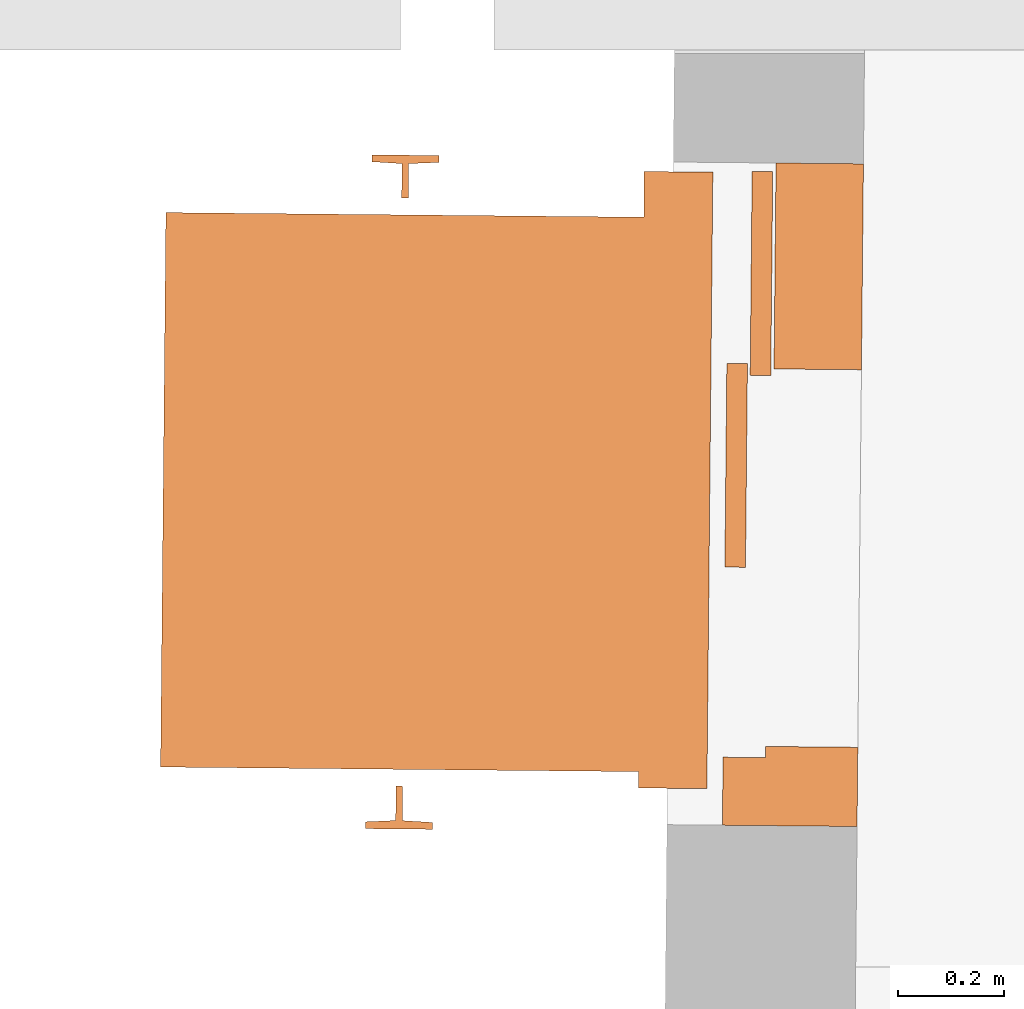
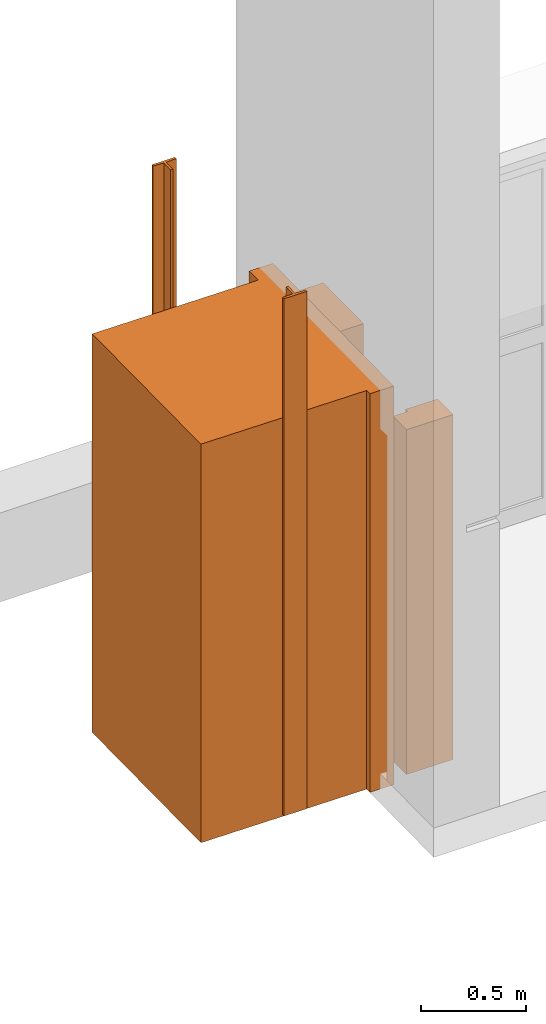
# One storey, part 13 of 13: 1 proxy.
"""IFC4 building model written with IfcOpenShell, lengths in metres."""

import ifcopenshell
import ifcopenshell.guid

model = None  # the IFC model being written
_history = None  # IfcOwnerHistory: only IFC2X3 demands one
_inside = {}  # id of a spatial element -> (the spatial element, [elements in it])
_under = {}  # id of a project, library or spatial element -> (it, [spatial elements below it])
_declared = {}  # id of a project -> (the project, [libraries it declares])
_typed = {}  # id of a type object -> (the type object, [elements of that type])
_made_of = {}  # id of a material, layer set ... -> (it, [elements and type objects made of it])


def new_model(schema):
    """Start an empty IFC model of exactly this schema.

    Asked for "IFC4X3", IfcOpenShell would pick the latest addendum, in which some entities
    have other attributes; the version numbers below select the first issue.
    IFC2X3 requires an IfcOwnerHistory on every rooted entity: one is made here for all.
    """
    global model, _history
    if schema == "IFC4X3":
        model = ifcopenshell.file(schema_version=(4, 3, 0, 0))
    else:
        model = ifcopenshell.file(schema=schema)
    _inside.clear()
    _under.clear()
    _declared.clear()
    _typed.clear()
    _made_of.clear()
    _history = None
    if model.schema == "IFC2X3":
        org = make("IfcOrganization", Name="unknown")
        user = make(
            "IfcPersonAndOrganization",
            ThePerson=make("IfcPerson", FamilyName="unknown"),
            TheOrganization=org,
        )
        app = make(
            "IfcApplication",
            ApplicationDeveloper=org,
            Version="unknown",
            ApplicationFullName="unknown",
            ApplicationIdentifier="unknown",
        )
        _history = make(
            "IfcOwnerHistory",
            OwningUser=user,
            OwningApplication=app,
            ChangeAction="ADDED",
            CreationDate=0,
        )
    return model


def make(cls, **values):
    """One entity of the class cls with the attributes given. An attribute that is None is left unset."""
    return model.create_entity(
        cls, **{name: value for name, value in values.items() if value is not None}
    )


def entity(cls, *values):
    """Any entity or typed value of the class cls, its attributes in the order of the schema. None: left unset."""
    e = model.create_entity(cls)
    for i, value in enumerate(values):
        if value is not None:
            e[i] = value
    return e


def rooted(cls, **values):
    """An entity with a GlobalId (a new one), such as an element, a storey or a relation."""
    return make(cls, GlobalId=ifcopenshell.guid.new(), OwnerHistory=_history, **values)


def si_unit(unit_type, name, prefix=None):
    """IfcSIUnit, for example si_unit("LENGTHUNIT", "METRE", prefix="MILLI")."""
    return make("IfcSIUnit", UnitType=unit_type, Prefix=prefix, Name=name)


def converted_unit(unit_type, name, factor, base, dimensions=None, offset=None):
    """IfcConversionBasedUnit, such as the inch: factor (a typed value) times the base unit."""
    return make(
        "IfcConversionBasedUnit"
        if offset is None
        else "IfcConversionBasedUnitWithOffset",
        ConversionOffset=offset,
        Dimensions=None
        if dimensions is None
        else entity("IfcDimensionalExponents", *dimensions),
        UnitType=unit_type,
        Name=name,
        ConversionFactor=make(
            "IfcMeasureWithUnit", ValueComponent=factor, UnitComponent=base
        ),
    )


def derived_unit(unit_type, elements):
    """IfcDerivedUnit: a product of units, each with its exponent."""
    return make(
        "IfcDerivedUnit",
        Elements=[
            make("IfcDerivedUnitElement", Unit=unit, Exponent=power)
            for unit, power in elements
        ],
        UnitType=unit_type,
    )


def assignment(units):
    """IfcUnitAssignment: the units of a project."""
    return None if units is None else make("IfcUnitAssignment", Units=units)


def point(xyz):
    """IfcCartesianPoint."""
    return None if xyz is None else make("IfcCartesianPoint", Coordinates=xyz)


def direction(xyz):
    """IfcDirection."""
    return None if xyz is None else make("IfcDirection", DirectionRatios=xyz)


def frame(location, z_axis=None, x_axis=None):
    """IfcAxis2Placement3D, a coordinate frame: its origin and axes. An axis left out is left unset."""
    return make(
        "IfcAxis2Placement3D",
        Location=point(location),
        Axis=direction(z_axis),
        RefDirection=direction(x_axis),
    )


def origin():
    """The frame at (0, 0, 0) with its axes left unset."""
    return frame((0.0, 0.0, 0.0))


def place(relative_to, where):
    """IfcLocalPlacement: puts the frame where relative to a parent placement (None: the world)."""
    return make(
        "IfcLocalPlacement", PlacementRelTo=relative_to, RelativePlacement=where
    )


def context(
    kind, dimensions, precision=None, world=None, true_north=None, identifier=None
):
    """IfcGeometricRepresentationContext, for example the 3D "Model" context."""
    return make(
        "IfcGeometricRepresentationContext",
        ContextIdentifier=identifier,
        ContextType=kind,
        CoordinateSpaceDimension=dimensions,
        Precision=precision,
        WorldCoordinateSystem=world,
        TrueNorth=true_north,
    )


def subcontext(parent, identifier, kind, view, scale=None):
    """IfcGeometricRepresentationSubContext, for example "Body" below "Model"."""
    return make(
        "IfcGeometricRepresentationSubContext",
        ContextIdentifier=identifier,
        ContextType=kind,
        ParentContext=parent,
        TargetScale=scale,
        TargetView=view,
    )


def project(units=None, contexts=None):
    """IfcProject with its units and contexts."""
    return rooted(
        "IfcProject",
        Name="project",
        RepresentationContexts=contexts,
        UnitsInContext=assignment(units),
    )


def spatial(cls, under=None, at=None, **own):
    """A site, building, storey or space (cls), placed at a placement, below another one or the project."""
    s = rooted(cls, ObjectPlacement=at, **own)
    if under is not None:
        _under.setdefault(under.id(), (under, []))[1].append(s)
    return s


def point_list(points):
    """IfcCartesianPointList2D or 3D."""
    cls = (
        "IfcCartesianPointList2D" if len(points[0]) == 2 else "IfcCartesianPointList3D"
    )
    return make(cls, CoordList=points)


def polygons(points, faces, closed=None, point_numbers=None):
    """IfcPolygonalFaceSet: a face is its outer loop, then its inner loops; points numbered from 1."""
    made = []
    for loops in faces:
        if len(loops) == 1:
            made.append(make("IfcIndexedPolygonalFace", CoordIndex=loops[0]))
        else:
            made.append(
                make(
                    "IfcIndexedPolygonalFaceWithVoids",
                    CoordIndex=loops[0],
                    InnerCoordIndices=loops[1:],
                )
            )
    return make(
        "IfcPolygonalFaceSet",
        Coordinates=point_list(points),
        Closed=closed,
        Faces=made,
        PnIndex=point_numbers,
    )


def shape(context_of_items, identifier, shape_type, items):
    """IfcShapeRepresentation: the items that make up one representation, for example the "Body"."""
    return make(
        "IfcShapeRepresentation",
        ContextOfItems=context_of_items,
        RepresentationIdentifier=identifier,
        RepresentationType=shape_type,
        Items=items,
    )


def source(mapping_origin, context_of_items, identifier, shape_type, items):
    """IfcRepresentationMap: a shape defined once, which mapped items show again and again."""
    return make(
        "IfcRepresentationMap",
        MappingOrigin=mapping_origin,
        MappedRepresentation=shape(context_of_items, identifier, shape_type, items),
    )


def transform(
    local_origin,
    x_axis=None,
    y_axis=None,
    z_axis=None,
    scale=None,
    scale2=None,
    scale3=None,
    uniform=True,
):
    """IfcCartesianTransformationOperator3D, or its non-uniform kind. x_axis, y_axis, z_axis: its Axis1, 2, 3."""
    if uniform:
        return make(
            "IfcCartesianTransformationOperator3D",
            Axis1=direction(x_axis),
            Axis2=direction(y_axis),
            LocalOrigin=point(local_origin),
            Scale=scale,
            Axis3=direction(z_axis),
        )
    return make(
        "IfcCartesianTransformationOperator3DnonUniform",
        Axis1=direction(x_axis),
        Axis2=direction(y_axis),
        LocalOrigin=point(local_origin),
        Scale=scale,
        Axis3=direction(z_axis),
        Scale2=scale2,
        Scale3=scale3,
    )


def mapped(mapping_source, mapping_target):
    """IfcMappedItem: shows the shape of a source again, moved by a transform."""
    return make(
        "IfcMappedItem", MappingSource=mapping_source, MappingTarget=mapping_target
    )


def material(Name=None, Category=None):
    """IfcMaterial."""
    return make("IfcMaterial", Name=Name, Category=Category)


def made_of(thing, what):
    """Note that an element or type object is made of a material, layer set ...; save() writes the relation."""
    if what is not None:
        _made_of.setdefault(what.id(), (what, []))[1].append(thing)
    return thing


def type_object(cls, material=None, **own):
    """A type object (cls), such as IfcWallType, which elements share."""
    return made_of(rooted(cls, **own), material)


def type_shapes(of_type, sources):
    """Give a type object the sources (RepresentationMaps) that its elements show as mapped items."""
    of_type.RepresentationMaps = sources


def element(
    cls,
    number,
    at=None,
    inside=None,
    cuts=None,
    type_object=None,
    material=None,
    context=None,
    identifier="Body",
    shape_type=None,
    held_by="IfcProductDefinitionShape",
    body=None,
    shapes=None,
    **own,
):
    """One element of the class cls, such as IfcWall. Its Tag is "e" and its number.

    at: its placement. inside: the storey or other place that contains it. cuts: it is an
    opening in that element (IfcRelVoidsElement). A single representation is given by context,
    identifier, shape_type and body (its items); several are given by shapes. held_by: the class
    of the entity that holds the representations. save() writes the other relations.
    """
    e = rooted(cls, Tag="e%d" % number, ObjectPlacement=at, **own)
    if body is not None:
        shapes = [shape(context, identifier, shape_type, body)]
    if shapes is not None:
        e.Representation = make(held_by, Representations=shapes)
    if inside is not None:
        _inside.setdefault(inside.id(), (inside, []))[1].append(e)
    if cuts is not None:
        rooted(
            "IfcRelVoidsElement", RelatingBuildingElement=cuts, RelatedOpeningElement=e
        )
    if type_object is not None:
        _typed.setdefault(type_object.id(), (type_object, []))[1].append(e)
    return made_of(e, material)


def aggregate(whole, parts):
    """IfcRelAggregates: a whole, such as a stair, and the parts it consists of."""
    return rooted("IfcRelAggregates", RelatingObject=whole, RelatedObjects=parts)


def save(model, path):
    """Write the relations noted so far, then the file.

    IfcRelAggregates (storeys below a building ...), IfcRelContainedInSpatialStructure (elements
    in a storey), IfcRelDefinesByType, IfcRelAssociatesMaterial and IfcRelDeclares: one each for
    every whole, place, type object, material and project.
    """
    for whole, parts in _under.values():
        aggregate(whole, parts)
    for where, things in _inside.values():
        rooted(
            "IfcRelContainedInSpatialStructure",
            RelatedElements=things,
            RelatingStructure=where,
        )
    for kind, things in _typed.values():
        rooted("IfcRelDefinesByType", RelatedObjects=things, RelatingType=kind)
    for what, things in _made_of.values():
        rooted("IfcRelAssociatesMaterial", RelatedObjects=things, RelatingMaterial=what)
    for by, libraries in _declared.values():
        rooted("IfcRelDeclares", RelatingContext=by, RelatedDefinitions=libraries)
    model.write(path)


model = new_model("IFC4")

# Units and contexts
model_context = context("Model", 3, precision=1e-05, world=origin(), true_north=direction((6.12303176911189e-17, 1.0)))
body_context = subcontext(model_context, "Body", "Model", "MODEL_VIEW")
ifc_project = project(units=[si_unit("LENGTHUNIT", "METRE"), si_unit("AREAUNIT", "SQUARE_METRE"), si_unit("VOLUMEUNIT", "CUBIC_METRE"), converted_unit("PLANEANGLEUNIT", "DEGREE", entity("IfcRatioMeasure", 0.0174532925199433), si_unit("PLANEANGLEUNIT", "RADIAN"), dimensions=[0, 0, 0, 0, 0, 0, 0]), si_unit("MASSUNIT", "GRAM", prefix="KILO"), derived_unit("MASSDENSITYUNIT", [(si_unit("MASSUNIT", "GRAM", prefix="KILO"), 1), (si_unit("LENGTHUNIT", "METRE"), -3)]), derived_unit("MOMENTOFINERTIAUNIT", [(si_unit("LENGTHUNIT", "METRE"), 4)]), si_unit("TIMEUNIT", "SECOND"), si_unit("FREQUENCYUNIT", "HERTZ"), si_unit("THERMODYNAMICTEMPERATUREUNIT", "DEGREE_CELSIUS"), derived_unit("THERMALTRANSMITTANCEUNIT", [(si_unit("MASSUNIT", "GRAM", prefix="KILO"), 1), (si_unit("THERMODYNAMICTEMPERATUREUNIT", "KELVIN"), -1), (si_unit("TIMEUNIT", "SECOND"), -3)]), derived_unit("VOLUMETRICFLOWRATEUNIT", [(si_unit("LENGTHUNIT", "METRE"), 3), (si_unit("TIMEUNIT", "SECOND"), -1)]), si_unit("ELECTRICCURRENTUNIT", "AMPERE"), si_unit("ELECTRICVOLTAGEUNIT", "VOLT"), si_unit("POWERUNIT", "WATT"), si_unit("FORCEUNIT", "NEWTON", prefix="KILO"), si_unit("ILLUMINANCEUNIT", "LUX"), si_unit("LUMINOUSFLUXUNIT", "LUMEN"), si_unit("LUMINOUSINTENSITYUNIT", "CANDELA"), derived_unit("USERDEFINED", [(si_unit("MASSUNIT", "GRAM", prefix="KILO"), -1), (si_unit("LENGTHUNIT", "METRE"), -2), (si_unit("TIMEUNIT", "SECOND"), 3), (si_unit("LUMINOUSFLUXUNIT", "LUMEN"), 1)]), derived_unit("LINEARVELOCITYUNIT", [(si_unit("LENGTHUNIT", "METRE"), 1), (si_unit("TIMEUNIT", "SECOND"), -1)]), si_unit("PRESSUREUNIT", "PASCAL"), derived_unit("USERDEFINED", [(si_unit("LENGTHUNIT", "METRE"), -2), (si_unit("MASSUNIT", "GRAM", prefix="KILO"), 1), (si_unit("TIMEUNIT", "SECOND"), -2)]), derived_unit("LINEARFORCEUNIT", [(si_unit("MASSUNIT", "GRAM", prefix="KILO"), 1), (si_unit("LENGTHUNIT", "METRE"), 1), (si_unit("TIMEUNIT", "SECOND"), -2), (si_unit("LENGTHUNIT", "METRE"), -1)]), derived_unit("PLANARFORCEUNIT", [(si_unit("MASSUNIT", "GRAM", prefix="KILO"), 1), (si_unit("LENGTHUNIT", "METRE"), 1), (si_unit("TIMEUNIT", "SECOND"), -2), (si_unit("LENGTHUNIT", "METRE"), -2)])], contexts=[model_context])

# Site, building, storey
site_placement = place(None, origin())
site = spatial("IfcSite", under=ifc_project, at=site_placement, Name="Default", CompositionType="ELEMENT")
building_placement = place(site_placement, origin())
building = spatial("IfcBuilding", under=site, at=building_placement, Name="HOTEL CONSULAIRE BOULOGNE SUR MER", CompositionType="ELEMENT")
storey_placement = place(building_placement, frame((0.0, 0.0, -1.40419978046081)))
storey = spatial("IfcBuildingStorey", under=building, at=storey_placement, Name="Demi-niveau", CompositionType="ELEMENT", Elevation=-1.40419978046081)

# Proxy
ifc_material = material(Name="<Unnamed>")
building_element_proxy_type = type_object("IfcBuildingElementProxyType", Name="Ascenseur 4 personnes - Mur:1000 x 880mm", PredefinedType="NOTDEFINED", material=ifc_material)
shared_shape = source(origin(), body_context, "Body", "Tessellation", [
    polygons([(-0.400000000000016, -1.1400000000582, 2.222), (0.649999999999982, -1.14000000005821, 2.222), (0.649999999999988, -0.235000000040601, 2.222), (0.68100000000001, -0.235000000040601, 2.222), (0.681000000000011, -0.105000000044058, 2.222), (-0.486499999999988, -0.105000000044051, 2.222), (-0.486499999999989, -0.235000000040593, 2.222), (-0.40000000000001, -0.235000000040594, 2.222), (-0.400000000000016, -1.1400000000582, 2.2), (-0.40000000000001, -0.235000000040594, 2.2), (-0.486499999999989, -0.235000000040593, 2.2), (-0.486499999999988, -0.105000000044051, 2.2), (0.681000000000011, -0.105000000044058, 2.2), (0.68100000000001, -0.235000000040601, 2.2), (0.649999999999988, -0.235000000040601, 2.2), (0.649999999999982, -1.14000000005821, 2.2)], [[[8, 1, 2, 3, 4, 5, 6, 7]], [[15, 16, 9, 10, 11, 12, 13, 14]], [[2, 1, 9, 16]], [[4, 3, 15, 14]], [[8, 7, 11, 10]], [[3, 2, 16, 15]], [[5, 4, 14, 13]], [[6, 5, 13, 12]], [[7, 6, 12, 11]], [[1, 8, 10, 9]]], closed=True),
    polygons([(-0.400000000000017, -1.1400000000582, 0.0), (0.64999999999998, -1.14000000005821, 0.0), (0.649999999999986, -0.235000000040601, 0.0), (0.68100000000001, -0.235000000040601, 0.0), (0.681000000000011, -0.105000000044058, 0.0), (-0.486499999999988, -0.105000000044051, 0.0), (-0.486499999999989, -0.235000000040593, 0.0), (-0.400000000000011, -0.235000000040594, 0.0), (-0.400000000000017, -1.1400000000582, -0.09), (-0.400000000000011, -0.235000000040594, -0.09), (-0.486499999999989, -0.235000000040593, -0.09), (-0.486499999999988, -0.105000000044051, -0.09), (0.681000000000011, -0.105000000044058, -0.09), (0.68100000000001, -0.235000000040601, -0.09), (0.649999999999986, -0.235000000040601, -0.09), (0.64999999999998, -1.14000000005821, -0.09)], [[[8, 1, 2, 3, 4, 5, 6, 7]], [[15, 16, 9, 10, 11, 12, 13, 14]], [[2, 1, 9, 16]], [[4, 3, 15, 14]], [[8, 7, 11, 10]], [[3, 2, 16, 15]], [[5, 4, 14, 13]], [[6, 5, 13, 12]], [[7, 6, 12, 11]], [[1, 8, 10, 9]]], closed=True),
    polygons([(-0.400000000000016, -1.1400000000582, 2.2), (0.649999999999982, -1.14000000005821, 2.2), (0.649999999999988, -0.235000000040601, 2.2), (0.68100000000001, -0.235000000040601, 2.2), (0.681000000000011, -0.105000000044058, 2.2), (-0.486499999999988, -0.105000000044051, 2.2), (-0.486499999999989, -0.235000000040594, 2.2), (-0.40000000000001, -0.235000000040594, 2.2), (-0.375000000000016, -1.1150000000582, 2.2), (-0.375000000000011, -0.235000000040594, 2.2), (-0.110300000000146, -0.235000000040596, 2.2), (-0.110300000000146, -0.197000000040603, 2.2), (-0.458122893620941, -0.197000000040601, 2.2), (-0.45812289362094, -0.108958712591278, 2.2), (0.621169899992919, -0.108958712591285, 2.2), (0.621169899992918, -0.192683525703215, 2.2), (0.59999999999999, -0.192683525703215, 2.2), (0.599999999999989, -0.235000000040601, 2.2), (0.624999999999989, -0.235000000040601, 2.2), (0.624999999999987, -0.57250164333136, 2.2), (0.610245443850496, -0.572501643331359, 2.2), (0.610245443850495, -0.802501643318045, 2.2), (0.624999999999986, -0.802501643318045, 2.2), (0.624999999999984, -1.11500000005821, 2.2), (-0.400000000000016, -1.1400000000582, 0.0), (-0.40000000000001, -0.235000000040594, 0.0), (-0.486499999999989, -0.235000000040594, 0.0), (-0.486499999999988, -0.105000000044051, 0.0), (-0.173443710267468, -0.105000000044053, 0.0), (-0.173443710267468, -0.10895871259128, 0.0), (-0.45812289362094, -0.108958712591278, 0.0), (-0.458122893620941, -0.197000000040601, 0.0), (-0.110300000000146, -0.197000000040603, 0.0), (-0.110300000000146, -0.235000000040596, 0.0), (-0.375000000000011, -0.235000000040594, 0.0), (-0.375000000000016, -1.1150000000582, 0.0), (0.624999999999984, -1.11500000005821, 0.0), (0.624999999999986, -0.802501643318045, 0.0), (0.610245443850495, -0.802501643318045, 0.0), (0.610245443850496, -0.572501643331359, 0.0), (0.624999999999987, -0.57250164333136, 0.0), (0.624999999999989, -0.235000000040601, 0.0), (0.599999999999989, -0.235000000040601, 0.0), (0.59999999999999, -0.192683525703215, 0.0), (0.621169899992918, -0.192683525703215, 0.0), (0.621169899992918, -0.105000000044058, 0.0), (0.681000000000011, -0.105000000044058, 0.0), (0.68100000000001, -0.235000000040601, 0.0), (0.649999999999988, -0.235000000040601, 0.0), (0.649999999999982, -1.14000000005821, 0.0), (0.621169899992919, -0.105000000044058, 2.0), (-0.173443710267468, -0.105000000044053, 2.0), (-0.173443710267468, -0.10895871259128, 2.0), (0.621169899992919, -0.108958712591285, 2.0), (0.59999999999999, -0.192683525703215, 2.0)], [[[9, 10, 11, 12, 13, 14, 15, 16, 17, 18, 19, 20, 21, 22, 23, 24], [1, 2, 3, 4, 5, 6, 7, 8]], [[50, 25, 26, 27, 28, 29, 30, 31, 32, 33, 34, 35, 36, 37, 38, 39, 40, 41, 42, 43, 44, 45, 46, 47, 48, 49]], [[51, 54, 53, 52]], [[2, 1, 25, 50]], [[4, 3, 49, 48]], [[8, 7, 27, 26]], [[11, 10, 35, 34]], [[54, 15, 14, 31, 30, 53]], [[19, 18, 43, 42]], [[23, 22, 39, 38]], [[3, 2, 50, 49]], [[5, 4, 48, 47]], [[10, 9, 36, 35]], [[12, 11, 34, 33]], [[14, 13, 32, 31]], [[52, 53, 30, 29]], [[5, 47, 46, 51, 52, 29, 28, 6]], [[13, 12, 33, 32]], [[17, 16, 45, 44, 55]], [[21, 20, 41, 40]], [[9, 24, 37, 36]], [[7, 6, 28, 27]], [[1, 8, 26, 25]], [[54, 51, 46, 45, 16, 15]], [[18, 17, 55, 44, 43]], [[20, 19, 42, 41]], [[22, 21, 40, 39]], [[24, 23, 38, 37]]], closed=True),
    polygons([(-0.497026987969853, -0.693801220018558, 0.0), (-0.500026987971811, -0.75100121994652, 0.0), (-0.513026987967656, -0.75100121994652, 0.0), (-0.513026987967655, -0.624001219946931, 0.0), (-0.500026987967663, -0.624001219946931, 0.0), (-0.497113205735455, -0.681305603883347, 0.0), (-0.432026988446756, -0.681305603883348, 0.0), (-0.432026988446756, -0.693801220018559, 0.0), (-0.497026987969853, -0.693801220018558, 3.0), (-0.432026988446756, -0.693801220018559, 3.0), (-0.432026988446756, -0.681305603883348, 3.0), (-0.497113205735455, -0.681305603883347, 3.0), (-0.500026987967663, -0.624001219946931, 3.0), (-0.513026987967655, -0.624001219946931, 3.0), (-0.513026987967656, -0.75100121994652, 3.0), (-0.500026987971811, -0.75100121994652, 3.0)], [[[8, 1, 2, 3, 4, 5, 6, 7]], [[14, 15, 16, 9, 10, 11, 12, 13]], [[10, 9, 1, 8]], [[16, 15, 3, 2]], [[11, 10, 8, 7]], [[12, 11, 7, 6]], [[14, 13, 5, 4]], [[13, 12, 6, 5]], [[15, 14, 4, 3]], [[9, 16, 2, 1]]], closed=True),
    polygons([(0.750026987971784, -0.751001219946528, 3.0), (0.763026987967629, -0.751001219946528, 3.0), (0.76302698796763, -0.624001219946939, 3.0), (0.750026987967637, -0.624001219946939, 3.0), (0.747113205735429, -0.681305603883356, 3.0), (0.682026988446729, -0.681305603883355, 3.0), (0.682026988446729, -0.693801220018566, 3.0), (0.747026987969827, -0.693801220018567, 3.0), (0.750026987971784, -0.751001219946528, 0.0), (0.747026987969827, -0.693801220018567, 0.0), (0.682026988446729, -0.693801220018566, 0.0), (0.682026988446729, -0.681305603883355, 0.0), (0.747113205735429, -0.681305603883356, 0.0), (0.750026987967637, -0.624001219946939, 0.0), (0.76302698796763, -0.624001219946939, 0.0), (0.763026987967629, -0.751001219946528, 0.0)], [[[7, 8, 1, 2, 3, 4, 5, 6]], [[15, 16, 9, 10, 11, 12, 13, 14]], [[2, 1, 9, 16]], [[8, 7, 11, 10]], [[3, 2, 16, 15]], [[4, 3, 15, 14]], [[6, 5, 13, 12]], [[5, 4, 14, 13]], [[7, 6, 12, 11]], [[1, 8, 10, 9]]], closed=True),
    polygons([(-0.48862205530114, 0.00838938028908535, 0.0), (-0.10262205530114, 0.00838938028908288, 0.0), (-0.10262205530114, -0.0306106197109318, 0.0), (-0.48862205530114, -0.0306106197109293, 0.0), (-0.48862205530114, 0.00838938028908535, 2.0), (-0.48862205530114, -0.0306106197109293, 2.0), (-0.10262205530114, -0.0306106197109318, 2.0), (-0.10262205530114, 0.00838938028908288, 2.0)], [[[2, 3, 4, 1]], [[5, 6, 7, 8]], [[6, 5, 1, 4]], [[7, 6, 4, 3]], [[8, 7, 3, 2]], [[5, 8, 2, 1]]], closed=True),
    polygons([(-0.114830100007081, -0.144000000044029, 2.0), (0.271169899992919, -0.144000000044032, 2.0), (0.271169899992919, -0.108958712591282, 2.0), (-0.114830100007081, -0.108958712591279, 2.0), (-0.114830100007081, -0.144000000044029, 0.0), (-0.114830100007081, -0.108958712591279, 0.0), (0.271169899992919, -0.108958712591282, 0.0), (0.271169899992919, -0.144000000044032, 0.0)], [[[4, 1, 2, 3]], [[7, 8, 5, 6]], [[2, 1, 5, 8]], [[3, 2, 8, 7]], [[4, 3, 7, 6]], [[1, 4, 6, 5]]], closed=True),
    polygons([(-0.448622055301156, -0.190989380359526, 0.0), (-0.448622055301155, -0.149389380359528, 0.0), (-0.0626220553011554, -0.14938938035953, 0.0), (-0.0626220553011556, -0.190989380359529, 0.0), (-0.448622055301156, -0.190989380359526, 2.0), (-0.0626220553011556, -0.190989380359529, 2.0), (-0.0626220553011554, -0.14938938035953, 2.0), (-0.448622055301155, -0.149389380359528, 2.0)], [[[3, 4, 1, 2]], [[8, 5, 6, 7]], [[6, 5, 1, 4]], [[7, 6, 4, 3]], [[8, 7, 3, 2]], [[5, 8, 2, 1]]], closed=True),
    polygons([(-0.124830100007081, -0.0750000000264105, 0.0), (-0.124830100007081, -0.0360000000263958, 0.0), (0.261169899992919, -0.0360000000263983, 0.0), (0.261169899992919, -0.075000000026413, 0.0), (-0.124830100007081, -0.0750000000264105, 2.0), (0.261169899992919, -0.075000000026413, 2.0), (0.261169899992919, -0.0360000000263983, 2.0), (-0.124830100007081, -0.0360000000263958, 2.0)], [[[3, 4, 1, 2]], [[8, 5, 6, 7]], [[6, 5, 1, 4]], [[7, 6, 4, 3]], [[8, 7, 3, 2]], [[5, 8, 2, 1]]], closed=True),
    polygons([(0.599999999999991, 0.00499999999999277, 0.0), (0.599999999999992, 0.180000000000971, 0.0), (0.750000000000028, 0.18000000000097, 0.0), (0.750000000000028, -0.075000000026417, 0.0), (0.621169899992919, -0.0750000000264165, 0.0), (0.621169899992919, 0.0049999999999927, 0.0), (0.599999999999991, 0.00499999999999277, 2.0), (0.621169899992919, 0.0049999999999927, 2.0), (0.621169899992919, -0.0750000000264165, 2.0), (0.750000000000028, -0.075000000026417, 2.0), (0.750000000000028, 0.18000000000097, 2.0), (0.599999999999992, 0.180000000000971, 2.0)], [[[6, 1, 2, 3, 4, 5]], [[10, 11, 12, 7, 8, 9]], [[8, 7, 1, 6]], [[10, 9, 5, 4]], [[9, 8, 6, 5]], [[7, 12, 2, 1]], [[11, 10, 4, 3]], [[12, 11, 3, 2]]], closed=True),
    polygons([(-0.114979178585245, 0.179999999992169, 2.0), (-0.505006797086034, 0.180000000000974, 2.0), (-0.505006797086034, 0.0144785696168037, 2.0), (-0.114979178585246, 0.0144785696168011, 2.0), (-0.114979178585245, 0.179999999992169, 0.0), (-0.114979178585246, 0.0144785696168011, 0.0), (-0.505006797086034, 0.0144785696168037, 0.0), (-0.505006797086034, 0.180000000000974, 0.0)], [[[4, 1, 2, 3]], [[7, 8, 5, 6]], [[2, 1, 5, 8]], [[3, 2, 8, 7]], [[4, 3, 7, 6]], [[1, 4, 6, 5]]], closed=True),
])
type_shapes(building_element_proxy_type, [shared_shape])
proxy_placement = place(storey_placement, frame((9.27774164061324, -10.9530269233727, -0.2674), z_axis=(0.0, 0.0, 1.0), x_axis=(-0.00962277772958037, -0.999953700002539, 0.0)))
element("IfcBuildingElementProxy", 1, at=proxy_placement, inside=storey, type_object=building_element_proxy_type, Name="Ascenseur 4 personnes - Mur:1000 x 880mm", ObjectType="Ascenseur 4 personnes - Mur:1000 x 880mm", PredefinedType="NOTDEFINED", context=body_context, shape_type="MappedRepresentation", body=[
    mapped(shared_shape, transform((0.0, 0.0, 0.0), scale=1.0)),
])

save(model, "model.ifc")
